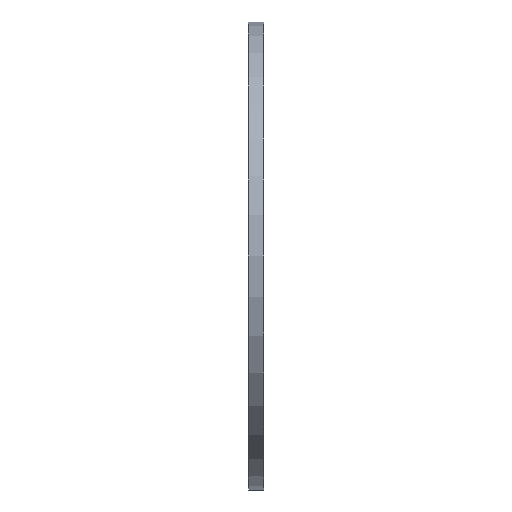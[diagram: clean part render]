
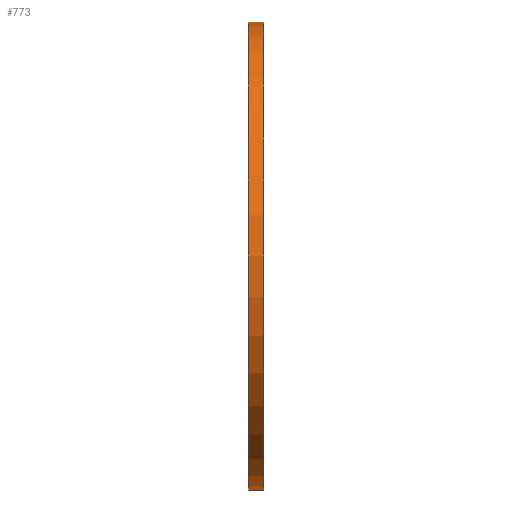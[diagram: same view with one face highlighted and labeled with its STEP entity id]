
A CAD part, left-side view. The second image highlights one B-rep face of the part: STEP entity #773.
In plain terms, the highlighted cylindrical face has radius 390 mm (diameter 780 mm), a partial arc.
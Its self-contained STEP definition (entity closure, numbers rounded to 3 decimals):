
#29 = CARTESIAN_POINT ( 'NONE',  ( 0., 38.545, 0. ) ) ;
#41 = EDGE_CURVE ( 'NONE', #260, #732, #1495, .T. ) ;
#103 = CIRCLE ( 'NONE', #1325, 390. ) ;
#119 = LINE ( 'NONE', #530, #1204 ) ;
#131 = VECTOR ( 'NONE', #520, 1000. ) ;
#175 = DIRECTION ( 'NONE',  ( 0., 1., 0. ) ) ;
#235 = EDGE_CURVE ( 'NONE', #260, #923, #103, .T. ) ;
#260 = VERTEX_POINT ( 'NONE', #1131 ) ;
#265 = ORIENTED_EDGE ( 'NONE', *, *, #1430, .T. ) ;
#344 = EDGE_LOOP ( 'NONE', ( #1337, #1708, #265, #1714 ) ) ;
#490 = CARTESIAN_POINT ( 'NONE',  ( 0., 0., 390. ) ) ;
#520 = DIRECTION ( 'NONE',  ( 0., 1., 0. ) ) ;
#530 = CARTESIAN_POINT ( 'NONE',  ( 0., 38.545, 390. ) ) ;
#546 = CARTESIAN_POINT ( 'NONE',  ( 0., 38.545, -390. ) ) ;
#590 = DIRECTION ( 'NONE',  ( 0., 0., 1. ) ) ;
#718 = DIRECTION ( 'NONE',  ( 0., 0., 1. ) ) ;
#732 = VERTEX_POINT ( 'NONE', #1331 ) ;
#773 = ADVANCED_FACE ( 'NONE', ( #1028 ), #1431, .T. ) ;
#849 = CARTESIAN_POINT ( 'NONE',  ( 0., 0., 0. ) ) ;
#923 = VERTEX_POINT ( 'NONE', #490 ) ;
#972 = AXIS2_PLACEMENT_3D ( 'NONE', #1004, #1692, #1550 ) ;
#1004 = CARTESIAN_POINT ( 'NONE',  ( 0., 25., 0. ) ) ;
#1028 = FACE_OUTER_BOUND ( 'NONE', #344, .T. ) ;
#1092 = DIRECTION ( 'NONE',  ( 0., 1., 0. ) ) ;
#1131 = CARTESIAN_POINT ( 'NONE',  ( 0., 0., -390. ) ) ;
#1178 = EDGE_CURVE ( 'NONE', #732, #1190, #1260, .T. ) ;
#1190 = VERTEX_POINT ( 'NONE', #1594 ) ;
#1204 = VECTOR ( 'NONE', #1092, 1000. ) ;
#1260 = CIRCLE ( 'NONE', #972, 390. ) ;
#1325 = AXIS2_PLACEMENT_3D ( 'NONE', #849, #175, #718 ) ;
#1330 = AXIS2_PLACEMENT_3D ( 'NONE', #29, #1421, #590 ) ;
#1331 = CARTESIAN_POINT ( 'NONE',  ( 0., 25., -390. ) ) ;
#1337 = ORIENTED_EDGE ( 'NONE', *, *, #41, .F. ) ;
#1421 = DIRECTION ( 'NONE',  ( 0., 1., 0. ) ) ;
#1430 = EDGE_CURVE ( 'NONE', #923, #1190, #119, .T. ) ;
#1431 = CYLINDRICAL_SURFACE ( 'NONE', #1330, 390. ) ;
#1495 = LINE ( 'NONE', #546, #131 ) ;
#1550 = DIRECTION ( 'NONE',  ( 0., 0., 1. ) ) ;
#1594 = CARTESIAN_POINT ( 'NONE',  ( 0., 25., 390. ) ) ;
#1692 = DIRECTION ( 'NONE',  ( 0., 1., 0. ) ) ;
#1708 = ORIENTED_EDGE ( 'NONE', *, *, #235, .T. ) ;
#1714 = ORIENTED_EDGE ( 'NONE', *, *, #1178, .F. ) ;
